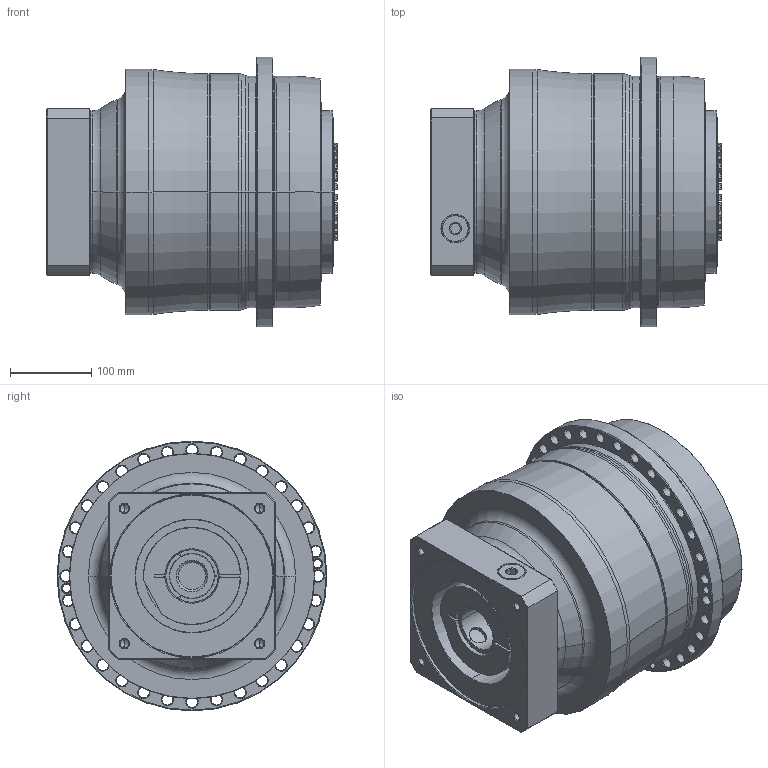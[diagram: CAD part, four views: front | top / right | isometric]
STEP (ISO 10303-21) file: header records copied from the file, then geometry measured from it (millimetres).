
FILE_DESCRIPTION((''),'2;1');
FILE_NAME('APC285_2ST_55-P0409C00201_ASM','2018-06-29T',('d01226'),(''),'PRO/ENGINEER BY PARAMETRIC TECHNOLOGY CORPORATION, 2008410','PRO/ENGINEER BY PARAMETRIC TECHNOLOGY CORPORATION, 2008410','');
FILE_SCHEMA(('CONFIG_CONTROL_DESIGN'));
Length unit declared in the file: millimetre
Products named in the file (9): P0278801003; P03598G0103; P1317810401; P0503C00016; P0912704001; P1211800001; P0409C00201; 21711426021; APC285_2ST_55-P0409C00201_ASM
Assembly tree (8 placements, depth 2):
  APC285_2ST_55-P0409C00201_ASM
    P0278801003
    P03598G0103
    P1317810401
    P0503C00016
    P0912704001
    P1211800001
    P0409C00201
    21711426021
Bounding box: 357.1 x 332 x 332 mm (x, y, z)
Volume: 18003832.1 mm3; surface area: 1099054.5 mm2
Topology: 9 solids, 21 shells, 817 faces, 2001 edges, 1225 vertices
Faces by surface type: cone 288, cylinder 234, plane 147, torus 132, bspline 16
Entity records: 29698 total; most frequent: CARTESIAN_POINT 9971, DIRECTION 4409, ORIENTED_EDGE 3916, EDGE_CURVE 1983, AXIS2_PLACEMENT_3D 1935, VERTEX_POINT 1225, CIRCLE 1105, EDGE_LOOP 942
